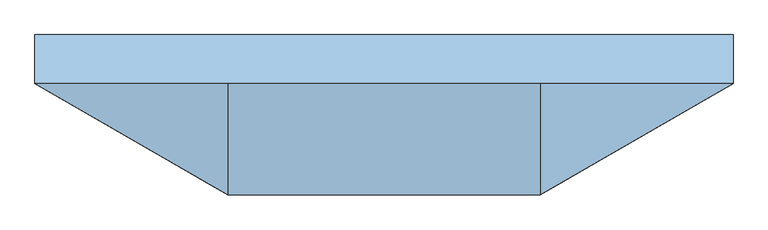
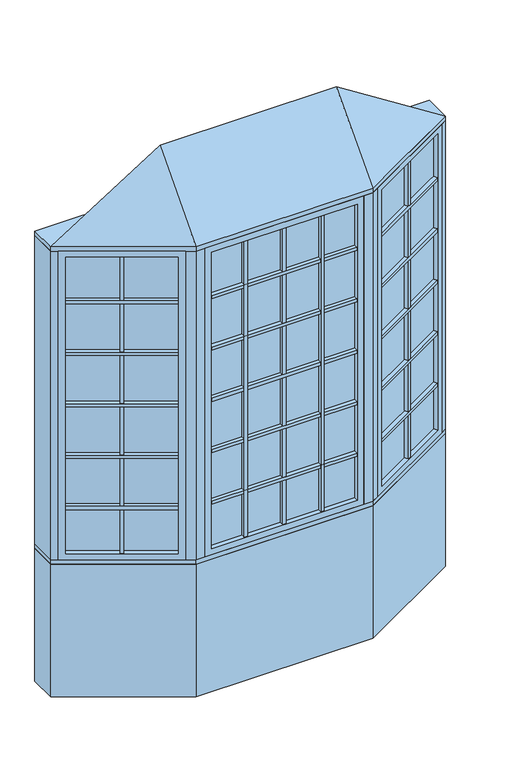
"""IFC4 building model written with IfcOpenShell, lengths in millimetres: window geometry, Pollard_Windows_Tudor Casement Bows and Bays : AML-BAY 30 AFR0518-12-600_GC."""

from ifc_helpers import new_model, si_unit, frame, origin, origin_with_axes, place, context, project, spatial, polyline, outline, extrude, faceted_brep, source, transform, mapped, element, save


def window_05fdbd84(model_context):
    return source(origin(), model_context, "Body", "SolidModel", [
        extrude(outline(polyline([(560.381999, -376.6297343), (549.381999, -357.5771754), (1015.6135794, -88.3982469), (1026.6135794, -107.4508058), (560.381999, -376.6297343)])), frame((0.0, 0.0, 1690.998), z_axis=(0.0, 0.0, 1.0), x_axis=(1.0, 0.0, 0.0)), (0.0, 0.0, 1.0), 18.0),
        extrude(outline(polyline([(546.841999, -353.1777664), (535.841999, -334.1252075), (1002.0735794, -64.946279), (1013.0735794, -83.9988379), (546.841999, -353.1777664)])), frame((0.0, 0.0, 1690.998), z_axis=(0.0, 0.0, 1.0), x_axis=(1.0, 0.0, 0.0)), (0.0, 0.0, 1.0), 18.0),
        extrude(outline(polyline([(560.381999, -376.6297343), (549.381999, -357.5771754), (1015.6135794, -88.3982469), (1026.6135794, -107.4508058), (560.381999, -376.6297343)])), frame((0.0, 0.0, 1090.998), z_axis=(0.0, 0.0, 1.0), x_axis=(1.0, 0.0, 0.0)), (0.0, 0.0, 1.0), 18.0),
        extrude(outline(polyline([(546.841999, -353.1777664), (535.841999, -334.1252075), (1002.0735794, -64.946279), (1013.0735794, -83.9988379), (546.841999, -353.1777664)])), frame((0.0, 0.0, 1090.998), z_axis=(0.0, 0.0, 1.0), x_axis=(1.0, 0.0, 0.0)), (0.0, 0.0, 1.0), 18.0),
        extrude(outline(polyline([(560.381999, -376.6297343), (549.381999, -357.5771754), (1015.6135794, -88.3982469), (1026.6135794, -107.4508058), (560.381999, -376.6297343)])), frame((0.0, 0.0, 1390.998), z_axis=(0.0, 0.0, 1.0), x_axis=(1.0, 0.0, 0.0)), (0.0, 0.0, 1.0), 18.0),
        extrude(outline(polyline([(546.841999, -353.1777664), (535.841999, -334.1252075), (1002.0735794, -64.946279), (1013.0735794, -83.9988379), (546.841999, -353.1777664)])), frame((0.0, 0.0, 1390.998), z_axis=(0.0, 0.0, 1.0), x_axis=(1.0, 0.0, 0.0)), (0.0, 0.0, 1.0), 18.0),
        extrude(outline(polyline([(560.381999, -376.6297343), (549.381999, -357.5771754), (1015.6135794, -88.3982469), (1026.6135794, -107.4508058), (560.381999, -376.6297343)])), frame((0.0, 0.0, 1990.998), z_axis=(0.0, 0.0, 1.0), x_axis=(1.0, 0.0, 0.0)), (0.0, 0.0, 1.0), 18.0),
        extrude(outline(polyline([(546.841999, -353.1777664), (535.841999, -334.1252075), (1002.0735794, -64.946279), (1013.0735794, -83.9988379), (546.841999, -353.1777664)])), frame((0.0, 0.0, 1990.998), z_axis=(0.0, 0.0, 1.0), x_axis=(1.0, 0.0, 0.0)), (0.0, 0.0, 1.0), 18.0),
        extrude(outline(polyline([(560.381999, -376.6297343), (549.381999, -357.5771754), (1015.6135794, -88.3982469), (1026.6135794, -107.4508058), (560.381999, -376.6297343)])), frame((0.0, 0.0, 2290.998), z_axis=(0.0, 0.0, 1.0), x_axis=(1.0, 0.0, 0.0)), (0.0, 0.0, 1.0), 18.0),
        extrude(outline(polyline([(546.841999, -353.1777664), (535.841999, -334.1252075), (1002.0735794, -64.946279), (1013.0735794, -83.9988379), (546.841999, -353.1777664)])), frame((0.0, 0.0, 2290.998), z_axis=(0.0, 0.0, 1.0), x_axis=(1.0, 0.0, 0.0)), (0.0, 0.0, 1.0), 18.0),
        extrude(outline(polyline([(790.2920178, -218.4877112), (801.2920178, -237.5402701), (785.7035606, -246.5402701), (774.7035606, -227.4877112), (790.2920178, -218.4877112)])), frame((0.0, 0.0, 835.8628), z_axis=(0.0, 0.0, 1.0), x_axis=(1.0, 0.0, 0.0)), (0.0, 0.0, 1.0), 1728.2704),
        extrude(outline(polyline([(787.7520178, -214.0883021), (772.1635606, -223.0883021), (761.1635606, -204.0357432), (776.7520178, -195.0357432), (787.7520178, -214.0883021)])), frame((0.0, 0.0, 835.8628), z_axis=(0.0, 0.0, 1.0), x_axis=(1.0, 0.0, 0.0)), (0.0, 0.0, 1.0), 1728.2704),
        extrude(outline(polyline([(1026.612102, -82.0482469), (538.3834764, -363.9271754), (535.8434764, -359.5277664), (1024.072102, -77.6488379), (1026.612102, -82.0482469)])), frame((0.0, 0.0, 823.1628), z_axis=(0.0, 0.0, 1.0), x_axis=(1.0, 0.0, 0.0)), (0.0, 0.0, 1.0), 1753.6704),
        faceted_brep([(1015.6135794, -88.3982469, 835.8628), (1028.3135794, -110.3952922, 835.8628), (1028.3135794, -110.3952922, 2564.1332), (1015.6135794, -88.3982469, 2564.1332), (1024.072102, -77.6488379, 823.1628), (1026.612102, -82.0482469, 823.1628), (1026.612102, -82.0482469, 2576.8332), (1024.072102, -77.6488379, 2576.8332), (1000.3735794, -62.0017926, 835.8628), (1013.0735794, -83.9988379, 835.8628), (1013.0735794, -83.9988379, 2564.1332), (1000.3735794, -62.0017926, 2564.1332), (1059.3734073, -92.4628922, 799.998), (1031.4334073, -44.0693926, 799.998), (1031.4334073, -44.0693926, 2599.998), (1059.3734073, -92.4628922, 2599.998), (562.081999, -379.5742207, 2564.1332), (549.381999, -357.5771754, 2564.1332), (538.3834764, -363.9271754, 2576.8332), (535.8434764, -359.5277664, 2576.8332), (546.841999, -353.1777664, 2564.1332), (534.141999, -331.1807211, 2564.1332), (503.0821711, -349.1131211, 2599.998), (531.0221711, -397.5066207, 2599.998), (562.081999, -379.5742207, 835.8628), (549.381999, -357.5771754, 835.8628), (538.3834764, -363.9271754, 823.1628), (535.8434764, -359.5277664, 823.1628), (546.841999, -353.1777664, 835.8628), (534.141999, -331.1807211, 835.8628), (503.0821711, -349.1131211, 799.998), (531.0221711, -397.5066207, 799.998)], [[[0, 1, 2, 3]], [[4, 5, 6, 7]], [[8, 9, 10, 11]], [[12, 13, 14, 15]], [[3, 2, 16, 17]], [[7, 6, 18, 19]], [[11, 10, 20, 21]], [[15, 14, 22, 23]], [[17, 16, 24, 25]], [[19, 18, 26, 27]], [[21, 20, 28, 29]], [[23, 22, 30, 31]], [[25, 24, 1, 0]], [[5, 26, 18, 6], [3, 17, 25, 0]], [[27, 26, 5, 4]], [[7, 19, 27, 4], [9, 28, 20, 10]], [[29, 28, 9, 8]], [[13, 30, 22, 14], [11, 21, 29, 8]], [[31, 30, 13, 12]], [[15, 23, 31, 12], [1, 24, 16, 2]]]),
        extrude(outline(polyline([(220.7781504, -397.1066207), (220.7781504, -419.1066207), (202.7781504, -419.1066207), (202.7781504, -397.1066207), (220.7781504, -397.1066207)])), frame((0.0, 0.0, 835.8628), z_axis=(0.0, 0.0, 1.0), x_axis=(1.0, 0.0, 0.0)), (0.0, 0.0, 1.0), 1728.2704),
        extrude(outline(polyline([(220.7781504, -392.0266207), (202.7781504, -392.0266207), (202.7781504, -370.0266207), (220.7781504, -370.0266207), (220.7781504, -392.0266207)])), frame((0.0, 0.0, 835.8628), z_axis=(0.0, 0.0, 1.0), x_axis=(1.0, 0.0, 0.0)), (0.0, 0.0, 1.0), 1728.2704),
        extrude(outline(polyline([(-202.7781504, -397.1066207), (-202.7781504, -419.1066207), (-220.7781504, -419.1066207), (-220.7781504, -397.1066207), (-202.7781504, -397.1066207)])), frame((0.0, 0.0, 835.8628), z_axis=(0.0, 0.0, 1.0), x_axis=(1.0, 0.0, 0.0)), (0.0, 0.0, 1.0), 1728.2704),
        extrude(outline(polyline([(-202.7781504, -392.0266207), (-220.7781504, -392.0266207), (-220.7781504, -370.0266207), (-202.7781504, -370.0266207), (-202.7781504, -392.0266207)])), frame((0.0, 0.0, 835.8628), z_axis=(0.0, 0.0, 1.0), x_axis=(1.0, 0.0, 0.0)), (0.0, 0.0, 1.0), 1728.2704),
        extrude(outline(polyline([(-401.8561009, -419.1066207), (-401.8561009, -397.1066207), (401.8561009, -397.1066207), (401.8561009, -419.1066207), (-401.8561009, -419.1066207)])), frame((0.0, 0.0, 1090.998), z_axis=(0.0, 0.0, 1.0), x_axis=(1.0, 0.0, 0.0)), (0.0, 0.0, 1.0), 18.0),
        extrude(outline(polyline([(-401.8561009, -392.0266207), (-401.8561009, -370.0266207), (401.8561009, -370.0266207), (401.8561009, -392.0266207), (-401.8561009, -392.0266207)])), frame((0.0, 0.0, 1090.998), z_axis=(0.0, 0.0, 1.0), x_axis=(1.0, 0.0, 0.0)), (0.0, 0.0, 1.0), 18.0),
        extrude(outline(polyline([(-401.8561009, -419.1066207), (-401.8561009, -397.1066207), (401.8561009, -397.1066207), (401.8561009, -419.1066207), (-401.8561009, -419.1066207)])), frame((0.0, 0.0, 1390.998), z_axis=(0.0, 0.0, 1.0), x_axis=(1.0, 0.0, 0.0)), (0.0, 0.0, 1.0), 18.0),
        extrude(outline(polyline([(-401.8561009, -392.0266207), (-401.8561009, -370.0266207), (401.8561009, -370.0266207), (401.8561009, -392.0266207), (-401.8561009, -392.0266207)])), frame((0.0, 0.0, 1390.998), z_axis=(0.0, 0.0, 1.0), x_axis=(1.0, 0.0, 0.0)), (0.0, 0.0, 1.0), 18.0),
        extrude(outline(polyline([(-401.8561009, -419.1066207), (-401.8561009, -397.1066207), (401.8561009, -397.1066207), (401.8561009, -419.1066207), (-401.8561009, -419.1066207)])), frame((0.0, 0.0, 1690.998), z_axis=(0.0, 0.0, 1.0), x_axis=(1.0, 0.0, 0.0)), (0.0, 0.0, 1.0), 18.0),
        extrude(outline(polyline([(-401.8561009, -392.0266207), (-401.8561009, -370.0266207), (401.8561009, -370.0266207), (401.8561009, -392.0266207), (-401.8561009, -392.0266207)])), frame((0.0, 0.0, 1690.998), z_axis=(0.0, 0.0, 1.0), x_axis=(1.0, 0.0, 0.0)), (0.0, 0.0, 1.0), 18.0),
        extrude(outline(polyline([(-401.8561009, -419.1066207), (-401.8561009, -397.1066207), (401.8561009, -397.1066207), (401.8561009, -419.1066207), (-401.8561009, -419.1066207)])), frame((0.0, 0.0, 1990.998), z_axis=(0.0, 0.0, 1.0), x_axis=(1.0, 0.0, 0.0)), (0.0, 0.0, 1.0), 18.0),
        extrude(outline(polyline([(-401.8561009, -392.0266207), (-401.8561009, -370.0266207), (401.8561009, -370.0266207), (401.8561009, -392.0266207), (-401.8561009, -392.0266207)])), frame((0.0, 0.0, 1990.998), z_axis=(0.0, 0.0, 1.0), x_axis=(1.0, 0.0, 0.0)), (0.0, 0.0, 1.0), 18.0),
        extrude(outline(polyline([(-1026.6135794, -107.4508058), (-1015.6135794, -88.3982469), (-549.381999, -357.5771754), (-560.381999, -376.6297343), (-1026.6135794, -107.4508058)])), frame((0.0, 0.0, 1090.998), z_axis=(0.0, 0.0, 1.0), x_axis=(1.0, 0.0, 0.0)), (0.0, 0.0, 1.0), 18.0),
        extrude(outline(polyline([(-1013.0735794, -83.9988379), (-1002.0735794, -64.946279), (-535.841999, -334.1252075), (-546.841999, -353.1777664), (-1013.0735794, -83.9988379)])), frame((0.0, 0.0, 1090.998), z_axis=(0.0, 0.0, 1.0), x_axis=(1.0, 0.0, 0.0)), (0.0, 0.0, 1.0), 18.0),
        extrude(outline(polyline([(-1026.6135794, -107.4508058), (-1015.6135794, -88.3982469), (-549.381999, -357.5771754), (-560.381999, -376.6297343), (-1026.6135794, -107.4508058)])), frame((0.0, 0.0, 1390.998), z_axis=(0.0, 0.0, 1.0), x_axis=(1.0, 0.0, 0.0)), (0.0, 0.0, 1.0), 18.0),
        extrude(outline(polyline([(-1013.0735794, -83.9988379), (-1002.0735794, -64.946279), (-535.841999, -334.1252075), (-546.841999, -353.1777664), (-1013.0735794, -83.9988379)])), frame((0.0, 0.0, 1390.998), z_axis=(0.0, 0.0, 1.0), x_axis=(1.0, 0.0, 0.0)), (0.0, 0.0, 1.0), 18.0),
        extrude(outline(polyline([(-1026.6135794, -107.4508058), (-1015.6135794, -88.3982469), (-549.381999, -357.5771754), (-560.381999, -376.6297343), (-1026.6135794, -107.4508058)])), frame((0.0, 0.0, 1690.998), z_axis=(0.0, 0.0, 1.0), x_axis=(1.0, 0.0, 0.0)), (0.0, 0.0, 1.0), 18.0),
        extrude(outline(polyline([(-1013.0735794, -83.9988379), (-1002.0735794, -64.946279), (-535.841999, -334.1252075), (-546.841999, -353.1777664), (-1013.0735794, -83.9988379)])), frame((0.0, 0.0, 1690.998), z_axis=(0.0, 0.0, 1.0), x_axis=(1.0, 0.0, 0.0)), (0.0, 0.0, 1.0), 18.0),
        extrude(outline(polyline([(-1026.6135794, -107.4508058), (-1015.6135794, -88.3982469), (-549.381999, -357.5771754), (-560.381999, -376.6297343), (-1026.6135794, -107.4508058)])), frame((0.0, 0.0, 1990.998), z_axis=(0.0, 0.0, 1.0), x_axis=(1.0, 0.0, 0.0)), (0.0, 0.0, 1.0), 18.0),
        extrude(outline(polyline([(-1013.0735794, -83.9988379), (-1002.0735794, -64.946279), (-535.841999, -334.1252075), (-546.841999, -353.1777664), (-1013.0735794, -83.9988379)])), frame((0.0, 0.0, 1990.998), z_axis=(0.0, 0.0, 1.0), x_axis=(1.0, 0.0, 0.0)), (0.0, 0.0, 1.0), 18.0),
        extrude(outline(polyline([(-1026.6135794, -107.4508058), (-1015.6135794, -88.3982469), (-549.381999, -357.5771754), (-560.381999, -376.6297343), (-1026.6135794, -107.4508058)])), frame((0.0, 0.0, 2290.998), z_axis=(0.0, 0.0, 1.0), x_axis=(1.0, 0.0, 0.0)), (0.0, 0.0, 1.0), 18.0),
        extrude(outline(polyline([(-1013.0735794, -83.9988379), (-1002.0735794, -64.946279), (-535.841999, -334.1252075), (-546.841999, -353.1777664), (-1013.0735794, -83.9988379)])), frame((0.0, 0.0, 2290.998), z_axis=(0.0, 0.0, 1.0), x_axis=(1.0, 0.0, 0.0)), (0.0, 0.0, 1.0), 18.0),
        extrude(outline(polyline([(-401.8561009, -419.1066207), (-401.8561009, -397.1066207), (401.8561009, -397.1066207), (401.8561009, -419.1066207), (-401.8561009, -419.1066207)])), frame((0.0, 0.0, 2290.998), z_axis=(0.0, 0.0, 1.0), x_axis=(1.0, 0.0, 0.0)), (0.0, 0.0, 1.0), 18.0),
        extrude(outline(polyline([(-401.8561009, -392.0266207), (-401.8561009, -370.0266207), (401.8561009, -370.0266207), (401.8561009, -392.0266207), (-401.8561009, -392.0266207)])), frame((0.0, 0.0, 2290.998), z_axis=(0.0, 0.0, 1.0), x_axis=(1.0, 0.0, 0.0)), (0.0, 0.0, 1.0), 18.0),
        extrude(outline(polyline([(-774.7035606, -227.4877112), (-785.7035606, -246.5402701), (-801.2920178, -237.5402701), (-790.2920178, -218.4877112), (-774.7035606, -227.4877112)])), frame((0.0, 0.0, 835.8628), z_axis=(0.0, 0.0, 1.0), x_axis=(1.0, 0.0, 0.0)), (0.0, 0.0, 1.0), 1728.2704),
        extrude(outline(polyline([(-772.1635606, -223.0883021), (-787.7520178, -214.0883021), (-776.7520178, -195.0357432), (-761.1635606, -204.0357432), (-772.1635606, -223.0883021)])), frame((0.0, 0.0, 835.8628), z_axis=(0.0, 0.0, 1.0), x_axis=(1.0, 0.0, 0.0)), (0.0, 0.0, 1.0), 1728.2704),
        extrude(outline(polyline([(9.0, -397.1066207), (9.0, -419.1066207), (-9.0, -419.1066207), (-9.0, -397.1066207), (9.0, -397.1066207)])), frame((0.0, 0.0, 835.8628), z_axis=(0.0, 0.0, 1.0), x_axis=(1.0, 0.0, 0.0)), (0.0, 0.0, 1.0), 1728.2704),
        extrude(outline(polyline([(9.0, -392.0266207), (-9.0, -392.0266207), (-9.0, -370.0266207), (9.0, -370.0266207), (9.0, -392.0266207)])), frame((0.0, 0.0, 835.8628), z_axis=(0.0, 0.0, 1.0), x_axis=(1.0, 0.0, 0.0)), (0.0, 0.0, 1.0), 1728.2704),
        extrude(outline(polyline([(-538.3834764, -363.9271754), (-1026.612102, -82.0482469), (-1024.072102, -77.6488379), (-535.8434764, -359.5277664), (-538.3834764, -363.9271754)])), frame((0.0, 0.0, 823.1628), z_axis=(0.0, 0.0, 1.0), x_axis=(1.0, 0.0, 0.0)), (0.0, 0.0, 1.0), 1753.6704),
        faceted_brep([(-546.841999, -353.1777664, 2564.1332), (-534.141999, -331.1807211, 2564.1332), (-534.141999, -331.1807211, 835.8628), (-546.841999, -353.1777664, 835.8628), (-538.3834764, -363.9271754, 2576.8332), (-535.8434764, -359.5277664, 2576.8332), (-535.8434764, -359.5277664, 823.1628), (-538.3834764, -363.9271754, 823.1628), (-562.081999, -379.5742207, 2564.1332), (-549.381999, -357.5771754, 2564.1332), (-549.381999, -357.5771754, 835.8628), (-562.081999, -379.5742207, 835.8628), (-503.0821711, -349.1131211, 2599.998), (-531.0221711, -397.5066207, 2599.998), (-531.0221711, -397.5066207, 799.998), (-503.0821711, -349.1131211, 799.998), (-1000.3735794, -62.0017926, 835.8628), (-1013.0735794, -83.9988379, 835.8628), (-1024.072102, -77.6488379, 823.1628), (-1026.612102, -82.0482469, 823.1628), (-1015.6135794, -88.3982469, 835.8628), (-1028.3135794, -110.3952922, 835.8628), (-1059.3734073, -92.4628922, 799.998), (-1031.4334073, -44.0693926, 799.998), (-1000.3735794, -62.0017926, 2564.1332), (-1013.0735794, -83.9988379, 2564.1332), (-1024.072102, -77.6488379, 2576.8332), (-1026.612102, -82.0482469, 2576.8332), (-1015.6135794, -88.3982469, 2564.1332), (-1028.3135794, -110.3952922, 2564.1332), (-1059.3734073, -92.4628922, 2599.998), (-1031.4334073, -44.0693926, 2599.998)], [[[0, 1, 2, 3]], [[4, 5, 6, 7]], [[8, 9, 10, 11]], [[12, 13, 14, 15]], [[3, 2, 16, 17]], [[7, 6, 18, 19]], [[11, 10, 20, 21]], [[15, 14, 22, 23]], [[17, 16, 24, 25]], [[19, 18, 26, 27]], [[21, 20, 28, 29]], [[23, 22, 30, 31]], [[15, 23, 31, 12], [1, 24, 16, 2]], [[25, 24, 1, 0]], [[5, 26, 18, 6], [3, 17, 25, 0]], [[27, 26, 5, 4]], [[7, 19, 27, 4], [9, 28, 20, 10]], [[29, 28, 9, 8]], [[13, 30, 22, 14], [11, 21, 29, 8]], [[31, 30, 13, 12]]]),
        extrude(outline(polyline([(414.5561009, -397.1066207), (-414.5561009, -397.1066207), (-414.5561009, -392.0266207), (414.5561009, -392.0266207), (414.5561009, -397.1066207)])), frame((0.0, 0.0, 823.1628), z_axis=(0.0, 0.0, 1.0), x_axis=(1.0, 0.0, 0.0)), (0.0, 0.0, 1.0), 1753.6704),
        faceted_brep([(401.8561009, -397.1066207, 835.8628), (401.8561009, -422.5066207, 835.8628), (401.8561009, -422.5066207, 2564.1332), (401.8561009, -397.1066207, 2564.1332), (414.5561009, -392.0266207, 823.1628), (414.5561009, -397.1066207, 823.1628), (414.5561009, -397.1066207, 2576.8332), (414.5561009, -392.0266207, 2576.8332), (401.8561009, -366.6266207, 835.8628), (401.8561009, -392.0266207, 835.8628), (401.8561009, -392.0266207, 2564.1332), (401.8561009, -366.6266207, 2564.1332), (437.7209009, -422.5066207, 799.998), (437.7209009, -366.6266207, 799.998), (437.7209009, -366.6266207, 2599.998), (437.7209009, -422.5066207, 2599.998), (-401.8561009, -422.5066207, 2564.1332), (-401.8561009, -397.1066207, 2564.1332), (-414.5561009, -397.1066207, 2576.8332), (-414.5561009, -392.0266207, 2576.8332), (-401.8561009, -392.0266207, 2564.1332), (-401.8561009, -366.6266207, 2564.1332), (-437.7209009, -366.6266207, 2599.998), (-437.7209009, -422.5066207, 2599.998), (-401.8561009, -422.5066207, 835.8628), (-401.8561009, -397.1066207, 835.8628), (-414.5561009, -397.1066207, 823.1628), (-414.5561009, -392.0266207, 823.1628), (-401.8561009, -392.0266207, 835.8628), (-401.8561009, -366.6266207, 835.8628), (-437.7209009, -366.6266207, 799.998), (-437.7209009, -422.5066207, 799.998)], [[[0, 1, 2, 3]], [[4, 5, 6, 7]], [[8, 9, 10, 11]], [[12, 13, 14, 15]], [[3, 2, 16, 17]], [[7, 6, 18, 19]], [[11, 10, 20, 21]], [[15, 14, 22, 23]], [[17, 16, 24, 25]], [[19, 18, 26, 27]], [[21, 20, 28, 29]], [[23, 22, 30, 31]], [[15, 23, 31, 12], [1, 24, 16, 2]], [[25, 24, 1, 0]], [[5, 26, 18, 6], [3, 17, 25, 0]], [[27, 26, 5, 4]], [[7, 19, 27, 4], [9, 28, 20, 10]], [[29, 28, 9, 8]], [[13, 30, 22, 14], [11, 21, 29, 8]], [[31, 30, 13, 12]]]),
        faceted_brep([(1090.0, -74.7806207, 2625.398), (487.7209009, -422.5066207, 2625.398), (-487.7209009, -422.5066207, 2625.398), (-1090.0, -74.7806207, 2625.398), (-487.7209009, -74.7806207, 3006.398), (487.7209009, -74.7806207, 3006.398)], [[[0, 1, 2, 3]], [[3, 2, 4]], [[2, 1, 5, 4]], [[1, 0, 5]], [[0, 3, 4, 5]]]),
        extrude(outline(polyline([(-1090.0, 77.6193793), (1090.0, 77.6193793), (1090.0, -74.7806207), (487.7209009, -422.5066207), (-487.7209009, -422.5066207), (-1090.0, -74.7806207), (-1090.0, 77.6193793)])), frame((0.0, 0.0, 2599.998), z_axis=(0.0, 0.0, 1.0), x_axis=(1.0, 0.0, 0.0)), (0.0, 0.0, 1.0), 25.4),
        extrude(outline(polyline([(-1090.0, -74.7806207), (-1090.0, 77.6193793), (-1049.1645431, 77.6193793), (-1049.1645431, -74.7806207), (-1059.3734073, -92.4628922), (-1090.0, -74.7806207)])), frame((0.0, 0.0, 799.998), z_axis=(0.0, 0.0, 1.0), x_axis=(1.0, 0.0, 0.0)), (0.0, 0.0, 1.0), 1800.0),
        extrude(outline(polyline([(1090.0, 77.6193793), (1090.0, -74.7806207), (1059.3734073, -92.4628922), (1049.1645431, -74.7806207), (1049.1645431, 77.6193793), (1090.0, 77.6193793)])), frame((0.0, 0.0, 799.998), z_axis=(0.0, 0.0, 1.0), x_axis=(1.0, 0.0, 0.0)), (0.0, 0.0, 1.0), 1800.0),
        extrude(outline(polyline([(487.7209009, -422.5066207), (437.7209009, -422.5066207), (437.7209009, -372.5066207), (474.3234413, -372.5066207), (506.0221711, -354.2053505), (531.0221711, -397.5066207), (487.7209009, -422.5066207)])), frame((0.0, 0.0, 799.998), z_axis=(0.0, 0.0, 1.0), x_axis=(1.0, 0.0, 0.0)), (0.0, 0.0, 1.0), 1800.0),
        extrude(outline(polyline([(-487.7209009, -422.5066207), (-531.0221711, -397.5066207), (-506.0221711, -354.2053505), (-474.3234413, -372.5066207), (-437.7209009, -372.5066207), (-437.7209009, -422.5066207), (-487.7209009, -422.5066207)])), frame((0.0, 0.0, 799.998), z_axis=(0.0, 0.0, 1.0), x_axis=(1.0, 0.0, 0.0)), (0.0, 0.0, 1.0), 1800.0),
        extrude(outline(polyline([(-487.7209009, -422.5066207), (-1090.0, -74.7806207), (-1090.0, 77.6193793), (-1049.1645431, 77.6193793), (-446.885444, -270.1066207), (446.885444, -270.1066207), (1049.1645431, 77.6193793), (1090.0, 77.6193793), (1090.0, -74.7806207), (487.7209009, -422.5066207), (-487.7209009, -422.5066207)])), frame((0.0, 0.0, 774.598), z_axis=(0.0, 0.0, 1.0), x_axis=(1.0, 0.0, 0.0)), (0.0, 0.0, 1.0), 25.4),
        extrude(outline(polyline([(-1090.0, -74.7806207), (-1090.0, 77.6193793), (-1049.1645431, 77.6193793), (-446.885444, -270.1066207), (446.885444, -270.1066207), (1049.1645431, 77.6193793), (1090.0, 77.6193793), (1090.0, -74.7806207), (487.7209009, -422.5066207), (-487.7209009, -422.5066207), (-1090.0, -74.7806207)])), origin_with_axes(), (0.0, 0.0, 1.0), 774.598),
    ])


if __name__ == "__main__":
    model = new_model("IFC4")
    model_context = context("Model", 3, world=origin())
    ifc_project = project(units=[si_unit("LENGTHUNIT", "METRE", prefix="MILLI")], contexts=[model_context])
    site = spatial("IfcSite", under=ifc_project)
    building = spatial("IfcBuilding", under=site)
    placement = place(None, origin())
    window_shape = window_05fdbd84(model_context)
    element("IfcWindow", 1, ObjectType="Pollard_Windows_Tudor Casement Bows and Bays : AML-BAY 30 AFR0518-12-600_GC", at=placement, inside=building, context=model_context, shape_type="MappedRepresentation", body=[
        mapped(window_shape, transform((0.0, 0.0, 0.0), x_axis=(1.0, 0.0, 0.0), y_axis=(0.0, 1.0, 0.0), z_axis=(0.0, 0.0, 1.0))),
    ])
    save(model, "model.ifc")
